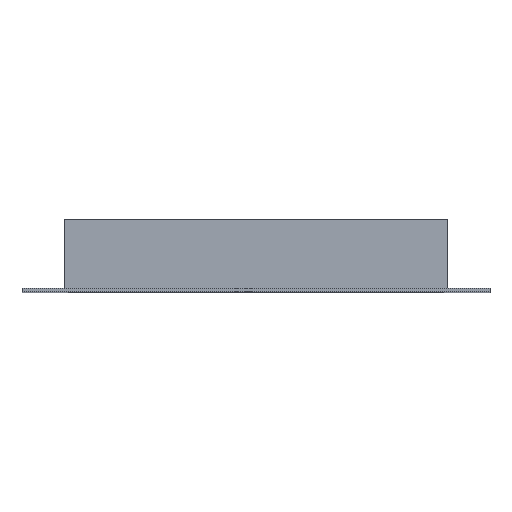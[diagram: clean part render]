
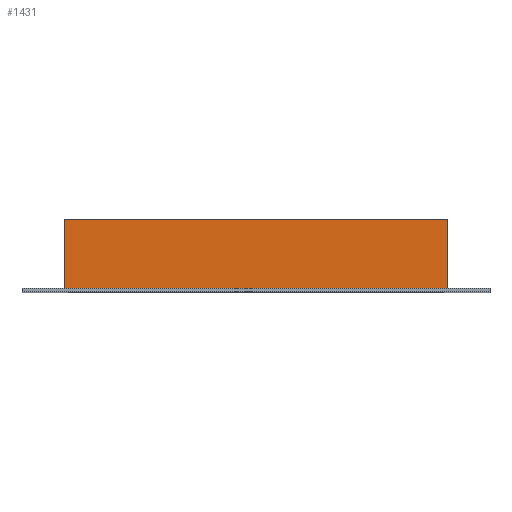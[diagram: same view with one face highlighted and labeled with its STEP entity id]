
A CAD part, top view. The second image highlights one B-rep face of the part: STEP entity #1431.
In plain terms, the highlighted planar face has unit normal (0, 0, 1).
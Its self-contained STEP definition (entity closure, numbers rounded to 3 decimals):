
#82=FACE_OUTER_BOUND('',#156,.T.);
#156=EDGE_LOOP('',(#1287,#1288,#1289,#1290));
#350=LINE('',#2188,#554);
#355=LINE('',#2199,#559);
#360=LINE('',#2208,#564);
#362=LINE('',#2212,#566);
#554=VECTOR('',#1786,10.);
#559=VECTOR('',#1793,10.);
#564=VECTOR('',#1800,10.);
#566=VECTOR('',#1806,10.);
#697=VERTEX_POINT('',#2181);
#700=VERTEX_POINT('',#2186);
#705=VERTEX_POINT('',#2198);
#708=VERTEX_POINT('',#2205);
#894=EDGE_CURVE('',#697,#700,#350,.F.);
#899=EDGE_CURVE('',#705,#697,#355,.T.);
#904=EDGE_CURVE('',#705,#708,#360,.T.);
#906=EDGE_CURVE('',#708,#700,#362,.T.);
#1287=ORIENTED_EDGE('',*,*,#906,.F.);
#1288=ORIENTED_EDGE('',*,*,#904,.F.);
#1289=ORIENTED_EDGE('',*,*,#899,.T.);
#1290=ORIENTED_EDGE('',*,*,#894,.T.);
#1373=PLANE('',#1497);
#1431=ADVANCED_FACE('',(#82),#1373,.T.);
#1497=AXIS2_PLACEMENT_3D('',#2211,#1804,#1805);
#1786=DIRECTION('',(0.,-1.,0.));
#1793=DIRECTION('',(1.,0.,0.));
#1800=DIRECTION('',(0.,1.,0.));
#1804=DIRECTION('center_axis',(0.,0.,1.));
#1805=DIRECTION('ref_axis',(1.,0.,0.));
#1806=DIRECTION('',(1.,0.,0.));
#2181=CARTESIAN_POINT('',(158.,-27.,158.));
#2186=CARTESIAN_POINT('',(158.,30.,158.));
#2188=CARTESIAN_POINT('',(158.,-30.,158.));
#2198=CARTESIAN_POINT('',(-158.,-27.,158.));
#2199=CARTESIAN_POINT('',(-77.5,-27.,158.));
#2205=CARTESIAN_POINT('',(-158.,30.,158.));
#2208=CARTESIAN_POINT('',(-158.,-30.,158.));
#2211=CARTESIAN_POINT('Origin',(-155.,-30.,158.));
#2212=CARTESIAN_POINT('',(-77.5,30.,158.));
